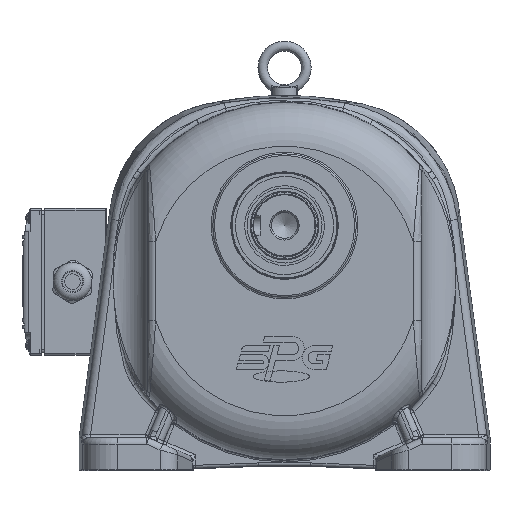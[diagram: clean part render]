
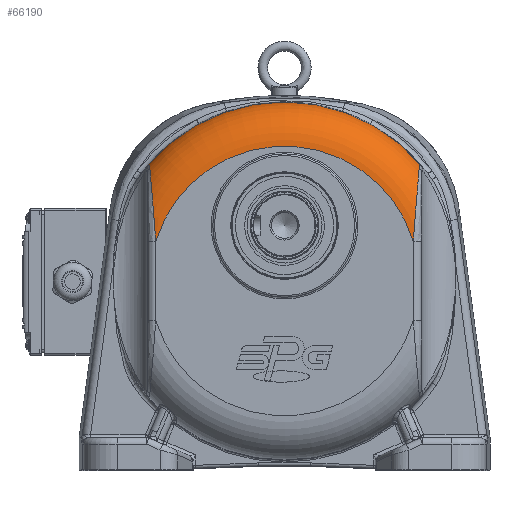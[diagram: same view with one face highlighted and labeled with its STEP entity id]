
A CAD part, top view. The second image highlights one B-rep face of the part: STEP entity #66190.
In plain terms, the highlighted toroidal (fillet/blend) face has major radius 82.678 mm and minor radius 27 mm.
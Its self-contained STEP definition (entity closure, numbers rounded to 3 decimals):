
#980=TOROIDAL_SURFACE('',#72028,82.678,27.);
#11772=FACE_OUTER_BOUND('',#15914,.T.);
#15914=EDGE_LOOP('',(#48647,#48648,#48649,#48650,#48651,#48652));
#19532=CIRCLE('',#70667,109.669);
#20204=CIRCLE('',#72005,82.678);
#22452=B_SPLINE_CURVE_WITH_KNOTS('',3,(#101556,#101557,#101558,#101559,
#101560),.UNSPECIFIED.,.F.,.F.,(4,1,4),(-0.783,-0.335,
0.),.UNSPECIFIED.);
#22460=B_SPLINE_CURVE_WITH_KNOTS('',3,(#101770,#101771,#101772,#101773,
#101774),.UNSPECIFIED.,.F.,.F.,(4,1,4),(-0.783,-0.447,
0.),.UNSPECIFIED.);
#22712=B_SPLINE_CURVE_WITH_KNOTS('',3,(#113161,#113162,#113163,#113164,
#113165,#113166,#113167,#113168,#113169),.UNSPECIFIED.,.F.,.F.,(4,1,1,1,
1,1,4),(-14.071,-13.415,-12.758,-12.43,
-12.101,-10.788,-9.474),.UNSPECIFIED.);
#22713=B_SPLINE_CURVE_WITH_KNOTS('',3,(#113170,#113171,#113172,#113173,
#113174,#113175,#113176,#113177,#113178),.UNSPECIFIED.,.F.,.F.,(4,1,1,1,
1,1,4),(-4.597,-3.284,-1.97,-1.642,
-1.313,-0.657,0.),.UNSPECIFIED.);
#26453=VERTEX_POINT('',#101552);
#26455=VERTEX_POINT('',#101555);
#26465=VERTEX_POINT('',#101766);
#26467=VERTEX_POINT('',#101769);
#27455=VERTEX_POINT('',#113053);
#27456=VERTEX_POINT('',#113055);
#33247=EDGE_CURVE('',#26453,#26455,#22452,.T.);
#33261=EDGE_CURVE('',#26465,#26467,#22460,.T.);
#33311=EDGE_CURVE('',#26465,#26455,#19532,.T.);
#34945=EDGE_CURVE('',#27456,#27455,#20204,.T.);
#34999=EDGE_CURVE('',#26467,#27455,#22712,.T.);
#35000=EDGE_CURVE('',#27456,#26453,#22713,.T.);
#48647=ORIENTED_EDGE('',*,*,#34945,.T.);
#48648=ORIENTED_EDGE('',*,*,#34999,.F.);
#48649=ORIENTED_EDGE('',*,*,#33261,.F.);
#48650=ORIENTED_EDGE('',*,*,#33311,.T.);
#48651=ORIENTED_EDGE('',*,*,#33247,.F.);
#48652=ORIENTED_EDGE('',*,*,#35000,.F.);
#66190=ADVANCED_FACE('',(#11772),#980,.T.);
#70667=AXIS2_PLACEMENT_3D('',#102016,#81166,#81167);
#72005=AXIS2_PLACEMENT_3D('',#113056,#84392,#84393);
#72028=AXIS2_PLACEMENT_3D('',#113160,#84469,#84470);
#81166=DIRECTION('center_axis',(0.,0.,1.));
#81167=DIRECTION('ref_axis',(-1.,0.,0.));
#84392=DIRECTION('center_axis',(0.,0.,-1.));
#84393=DIRECTION('ref_axis',(-1.,0.,0.));
#84469=DIRECTION('center_axis',(0.,0.,-1.));
#84470=DIRECTION('ref_axis',(-1.,0.,0.));
#101552=CARTESIAN_POINT('',(-79.676,69.434,71.818));
#101555=CARTESIAN_POINT('',(-81.021,70.692,62.686));
#101556=CARTESIAN_POINT('Ctrl Pts',(-79.676,69.434,
71.818));
#101557=CARTESIAN_POINT('Ctrl Pts',(-79.745,70.301,
70.254));
#101558=CARTESIAN_POINT('Ctrl Pts',(-80.033,71.351,
67.114));
#101559=CARTESIAN_POINT('Ctrl Pts',(-80.697,71.028,63.945));
#101560=CARTESIAN_POINT('Ctrl Pts',(-81.021,70.692,62.686));
#101766=CARTESIAN_POINT('',(86.803,70.692,62.686));
#101769=CARTESIAN_POINT('',(85.457,69.434,71.818));
#101770=CARTESIAN_POINT('Ctrl Pts',(86.803,70.692,62.686));
#101771=CARTESIAN_POINT('Ctrl Pts',(86.478,71.028,63.945));
#101772=CARTESIAN_POINT('Ctrl Pts',(85.809,71.346,67.149));
#101773=CARTESIAN_POINT('Ctrl Pts',(85.527,70.301,70.254));
#101774=CARTESIAN_POINT('Ctrl Pts',(85.457,69.434,71.818));
#102016=CARTESIAN_POINT('Origin',(2.891,0.08,62.686));
#113053=CARTESIAN_POINT('',(81.891,24.465,89.));
#113055=CARTESIAN_POINT('',(-76.109,24.465,89.));
#113056=CARTESIAN_POINT('Origin',(2.891,0.08,89.));
#113160=CARTESIAN_POINT('Origin',(2.891,0.08,62.));
#113161=CARTESIAN_POINT('Ctrl Pts',(85.457,69.434,71.818));
#113162=CARTESIAN_POINT('Ctrl Pts',(85.355,68.161,74.115));
#113163=CARTESIAN_POINT('Ctrl Pts',(85.085,64.816,78.204));
#113164=CARTESIAN_POINT('Ctrl Pts',(84.661,59.673,81.832));
#113165=CARTESIAN_POINT('Ctrl Pts',(84.291,55.253,84.054));
#113166=CARTESIAN_POINT('Ctrl Pts',(83.726,48.507,86.724));
#113167=CARTESIAN_POINT('Ctrl Pts',(82.842,37.972,88.739));
#113168=CARTESIAN_POINT('Ctrl Pts',(82.171,28.932,89.));
#113169=CARTESIAN_POINT('Ctrl Pts',(81.891,24.465,89.));
#113170=CARTESIAN_POINT('Ctrl Pts',(-76.109,24.465,
89.));
#113171=CARTESIAN_POINT('Ctrl Pts',(-76.39,28.932,
89.));
#113172=CARTESIAN_POINT('Ctrl Pts',(-77.061,37.972,
88.739));
#113173=CARTESIAN_POINT('Ctrl Pts',(-77.944,48.507,
86.724));
#113174=CARTESIAN_POINT('Ctrl Pts',(-78.51,55.253,
84.054));
#113175=CARTESIAN_POINT('Ctrl Pts',(-78.879,59.673,
81.832));
#113176=CARTESIAN_POINT('Ctrl Pts',(-79.304,64.816,78.204));
#113177=CARTESIAN_POINT('Ctrl Pts',(-79.574,68.161,
74.115));
#113178=CARTESIAN_POINT('Ctrl Pts',(-79.676,69.434,
71.818));
